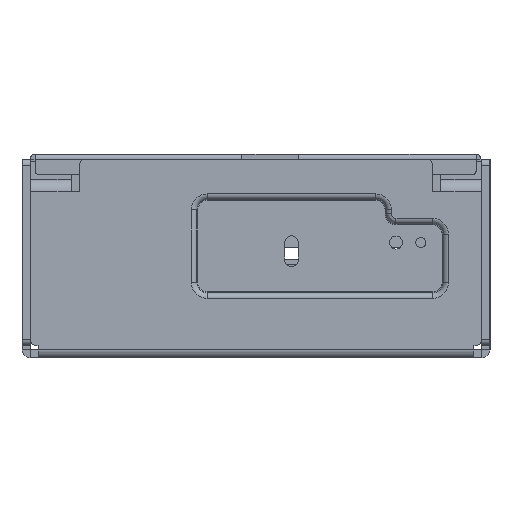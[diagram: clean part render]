
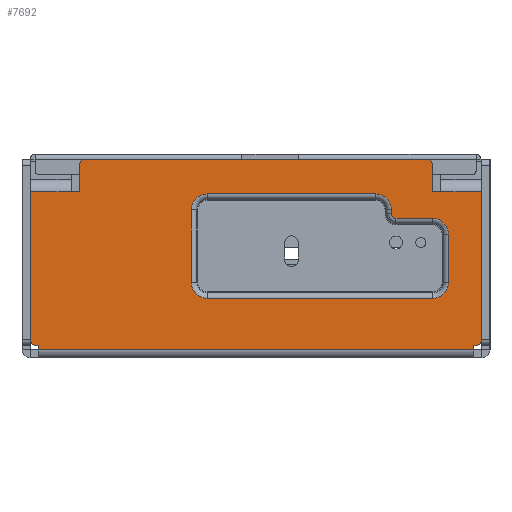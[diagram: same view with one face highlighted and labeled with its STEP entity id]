
A CAD part, left-side view. The second image highlights one B-rep face of the part: STEP entity #7692.
In plain terms, the highlighted planar face has unit normal (-1, 0, 0).
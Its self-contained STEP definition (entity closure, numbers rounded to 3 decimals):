
#1103=DIRECTION('',(0.,0.,-1.));
#1104=VECTOR('',#1103,1.);
#1105=CARTESIAN_POINT('',(0.,62.111,1.));
#1106=LINE('',#1105,#1104);
#1149=DIRECTION('',(0.,1.,0.));
#1150=VECTOR('',#1149,10.);
#1151=CARTESIAN_POINT('',(0.,54.011,38.8));
#1152=LINE('',#1151,#1150);
#1157=CARTESIAN_POINT('',(0.,50.511,45.3));
#1158=DIRECTION('',(1.,0.,0.));
#1159=DIRECTION('',(0.,1.,0.));
#1160=AXIS2_PLACEMENT_3D('',#1157,#1158,#1159);
#1162=DIRECTION('',(0.,-1.,0.));
#1163=VECTOR('',#1162,83.8);
#1164=CARTESIAN_POINT('',(0.,50.511,46.8));
#1165=LINE('',#1164,#1163);
#1166=CARTESIAN_POINT('',(0.,-33.289,45.3));
#1167=DIRECTION('',(1.,0.,0.));
#1168=DIRECTION('',(0.,0.,1.));
#1169=AXIS2_PLACEMENT_3D('',#1166,#1167,#1168);
#1171=DIRECTION('',(0.,-1.,0.));
#1172=VECTOR('',#1171,2.);
#1173=CARTESIAN_POINT('',(0.,-34.789,38.8));
#1174=LINE('',#1173,#1172);
#1175=DIRECTION('',(0.,0.,-1.));
#1176=VECTOR('',#1175,36.3);
#1177=CARTESIAN_POINT('',(0.,-46.789,38.8));
#1178=LINE('',#1177,#1176);
#1179=CARTESIAN_POINT('',(0.,-45.289,2.5));
#1180=DIRECTION('',(1.,0.,0.));
#1181=DIRECTION('',(0.,-1.,0.));
#1182=AXIS2_PLACEMENT_3D('',#1179,#1180,#1181);
#1184=DIRECTION('',(0.,1.,0.));
#1185=VECTOR('',#1184,0.4);
#1186=CARTESIAN_POINT('',(0.,-45.289,1.));
#1187=LINE('',#1186,#1185);
#1188=DIRECTION('',(0.,0.,-1.));
#1189=VECTOR('',#1188,1.);
#1190=CARTESIAN_POINT('',(0.,-44.889,1.));
#1191=LINE('',#1190,#1189);
#1192=DIRECTION('',(0.,1.,0.));
#1193=VECTOR('',#1192,0.4);
#1194=CARTESIAN_POINT('',(0.,62.111,1.));
#1195=LINE('',#1194,#1193);
#1196=CARTESIAN_POINT('',(0.,62.511,2.5));
#1197=DIRECTION('',(1.,0.,0.));
#1198=DIRECTION('',(0.,0.,-1.));
#1199=AXIS2_PLACEMENT_3D('',#1196,#1197,#1198);
#1201=DIRECTION('',(0.,0.,1.));
#1202=VECTOR('',#1201,36.3);
#1203=CARTESIAN_POINT('',(0.,64.011,2.5));
#1204=LINE('',#1203,#1202);
#1205=DIRECTION('',(0.,-1.,0.));
#1206=VECTOR('',#1205,2.);
#1207=CARTESIAN_POINT('',(0.,54.011,38.8));
#1208=LINE('',#1207,#1206);
#1209=DIRECTION('',(0.,0.,1.));
#1210=VECTOR('',#1209,6.5);
#1211=CARTESIAN_POINT('',(0.,52.011,38.8));
#1212=LINE('',#1211,#1210);
#1213=CARTESIAN_POINT('',(0.,-20.789,34.344));
#1214=DIRECTION('',(-1.,0.,0.));
#1215=DIRECTION('',(0.,-1.,0.));
#1216=AXIS2_PLACEMENT_3D('',#1213,#1214,#1215);
#1218=CARTESIAN_POINT('',(0.,20.611,34.344));
#1219=DIRECTION('',(-1.,0.,0.));
#1220=DIRECTION('',(0.,0.,1.));
#1221=AXIS2_PLACEMENT_3D('',#1218,#1219,#1220);
#1223=CARTESIAN_POINT('',(0.,20.611,16.5));
#1224=DIRECTION('',(-1.,0.,0.));
#1225=DIRECTION('',(0.,1.,0.));
#1226=AXIS2_PLACEMENT_3D('',#1223,#1224,#1225);
#1228=CARTESIAN_POINT('',(0.,-34.789,16.5));
#1229=DIRECTION('',(-1.,0.,0.));
#1230=DIRECTION('',(0.,0.,-1.));
#1231=AXIS2_PLACEMENT_3D('',#1228,#1229,#1230);
#1233=CARTESIAN_POINT('',(0.,-34.789,28.344));
#1234=DIRECTION('',(-1.,0.,0.));
#1235=DIRECTION('',(0.,-1.,0.));
#1236=AXIS2_PLACEMENT_3D('',#1233,#1234,#1235);
#1238=CARTESIAN_POINT('',(0.,-25.789,
33.344));
#1239=DIRECTION('',(1.,0.,0.));
#1240=DIRECTION('',(0.,0.,-1.));
#1241=AXIS2_PLACEMENT_3D('',#1238,#1239,#1240);
#1263=DIRECTION('',(0.,0.,1.));
#1264=VECTOR('',#1263,6.5);
#1265=CARTESIAN_POINT('',(0.,-34.789,38.8));
#1266=LINE('',#1265,#1264);
#1293=DIRECTION('',(0.,1.,0.));
#1294=VECTOR('',#1293,10.);
#1295=CARTESIAN_POINT('',(0.,-46.789,38.8));
#1296=LINE('',#1295,#1294);
#1605=DIRECTION('',(0.,-1.,0.));
#1606=VECTOR('',#1605,107.);
#1607=CARTESIAN_POINT('',(0.,62.111,0.));
#1608=LINE('',#1607,#1606);
#3838=DIRECTION('',(0.,0.,-1.));
#3839=VECTOR('',#3838,1.);
#3840=CARTESIAN_POINT('',(0.,-24.689,34.344));
#3841=LINE('',#3840,#3839);
#3875=DIRECTION('',(0.,-1.,0.));
#3876=VECTOR('',#3875,9.);
#3877=CARTESIAN_POINT('',(0.,-25.789,
32.244));
#3878=LINE('',#3877,#3876);
#3912=DIRECTION('',(0.,0.,-1.));
#3913=VECTOR('',#3912,11.844);
#3914=CARTESIAN_POINT('',(0.,-38.689,28.344));
#3915=LINE('',#3914,#3913);
#3935=DIRECTION('',(0.,1.,0.));
#3936=VECTOR('',#3935,55.4);
#3937=CARTESIAN_POINT('',(0.,-34.789,12.6));
#3938=LINE('',#3937,#3936);
#3982=DIRECTION('',(0.,0.,1.));
#3983=VECTOR('',#3982,17.844);
#3984=CARTESIAN_POINT('',(0.,24.511,16.5));
#3985=LINE('',#3984,#3983);
#4019=DIRECTION('',(0.,-1.,0.));
#4020=VECTOR('',#4019,41.4);
#4021=CARTESIAN_POINT('',(0.,20.611,38.244));
#4022=LINE('',#4021,#4020);
#5457=CARTESIAN_POINT('',(0.,-44.889,0.));
#5458=VERTEX_POINT('',#5457);
#5459=CARTESIAN_POINT('',(0.,-44.889,1.));
#5460=VERTEX_POINT('',#5459);
#5461=CARTESIAN_POINT('',(0.,62.111,0.));
#5462=VERTEX_POINT('',#5461);
#5463=CARTESIAN_POINT('',(0.,62.111,1.));
#5464=VERTEX_POINT('',#5463);
#5465=CARTESIAN_POINT('',(0.,62.511,1.));
#5466=VERTEX_POINT('',#5465);
#5467=CARTESIAN_POINT('',(0.,64.011,2.5));
#5468=VERTEX_POINT('',#5467);
#5469=CARTESIAN_POINT('',(0.,64.011,38.8));
#5470=VERTEX_POINT('',#5469);
#5475=CARTESIAN_POINT('',(0.,54.011,38.8));
#5476=VERTEX_POINT('',#5475);
#5479=CARTESIAN_POINT('',(0.,52.011,45.3));
#5480=CARTESIAN_POINT('',(0.,50.511,46.8));
#5481=VERTEX_POINT('',#5479);
#5482=VERTEX_POINT('',#5480);
#5483=CARTESIAN_POINT('',(0.,-33.289,46.8));
#5484=VERTEX_POINT('',#5483);
#5485=CARTESIAN_POINT('',(0.,-34.789,45.3));
#5486=VERTEX_POINT('',#5485);
#5487=CARTESIAN_POINT('',(0.,-34.789,38.8));
#5488=VERTEX_POINT('',#5487);
#5489=CARTESIAN_POINT('',(0.,-36.789,38.8));
#5490=VERTEX_POINT('',#5489);
#5491=CARTESIAN_POINT('',(0.,-46.789,38.8));
#5492=VERTEX_POINT('',#5491);
#5493=CARTESIAN_POINT('',(0.,-46.789,2.5));
#5494=VERTEX_POINT('',#5493);
#5495=CARTESIAN_POINT('',(0.,-45.289,1.));
#5496=VERTEX_POINT('',#5495);
#5497=CARTESIAN_POINT('',(0.,52.011,38.8));
#5498=VERTEX_POINT('',#5497);
#5499=CARTESIAN_POINT('',(0.,-24.689,34.344));
#5500=CARTESIAN_POINT('',(0.,-20.789,38.244));
#5501=VERTEX_POINT('',#5499);
#5502=VERTEX_POINT('',#5500);
#5503=CARTESIAN_POINT('',(0.,20.611,38.244));
#5504=VERTEX_POINT('',#5503);
#5505=CARTESIAN_POINT('',(0.,24.511,34.344));
#5506=VERTEX_POINT('',#5505);
#5507=CARTESIAN_POINT('',(0.,24.511,16.5));
#5508=VERTEX_POINT('',#5507);
#5509=CARTESIAN_POINT('',(0.,20.611,12.6));
#5510=VERTEX_POINT('',#5509);
#5511=CARTESIAN_POINT('',(0.,-34.789,12.6));
#5512=VERTEX_POINT('',#5511);
#5513=CARTESIAN_POINT('',(0.,-38.689,16.5));
#5514=VERTEX_POINT('',#5513);
#5515=CARTESIAN_POINT('',(0.,-38.689,28.344));
#5516=VERTEX_POINT('',#5515);
#5517=CARTESIAN_POINT('',(0.,-34.789,32.244));
#5518=VERTEX_POINT('',#5517);
#5519=CARTESIAN_POINT('',(0.,-25.789,
32.244));
#5520=VERTEX_POINT('',#5519);
#5521=CARTESIAN_POINT('',(0.,-24.689,
33.344));
#5522=VERTEX_POINT('',#5521);
#7629=CARTESIAN_POINT('',(0.,-46.889,-2.));
#7630=DIRECTION('',(-1.,0.,0.));
#7631=DIRECTION('',(0.,-1.,0.));
#7632=AXIS2_PLACEMENT_3D('',#7629,#7630,#7631);
#7633=PLANE('',#7632);
#7635=ORIENTED_EDGE('',*,*,#7634,.T.);
#7637=ORIENTED_EDGE('',*,*,#7636,.T.);
#7639=ORIENTED_EDGE('',*,*,#7638,.T.);
#7641=ORIENTED_EDGE('',*,*,#7640,.F.);
#7643=ORIENTED_EDGE('',*,*,#7642,.T.);
#7645=ORIENTED_EDGE('',*,*,#7644,.F.);
#7647=ORIENTED_EDGE('',*,*,#7646,.T.);
#7649=ORIENTED_EDGE('',*,*,#7648,.T.);
#7651=ORIENTED_EDGE('',*,*,#7650,.T.);
#7652=ORIENTED_EDGE('',*,*,#6719,.T.);
#7654=ORIENTED_EDGE('',*,*,#7653,.F.);
#7655=ORIENTED_EDGE('',*,*,#7551,.F.);
#7656=ORIENTED_EDGE('',*,*,#7564,.T.);
#7657=ORIENTED_EDGE('',*,*,#7579,.T.);
#7658=ORIENTED_EDGE('',*,*,#7592,.T.);
#7659=ORIENTED_EDGE('',*,*,#7619,.F.);
#7661=ORIENTED_EDGE('',*,*,#7660,.T.);
#7663=ORIENTED_EDGE('',*,*,#7662,.T.);
#7664=EDGE_LOOP('',(#7635,#7637,#7639,#7641,#7643,#7645,#7647,#7649,#7651,#7652,
#7654,#7655,#7656,#7657,#7658,#7659,#7661,#7663));
#7665=FACE_OUTER_BOUND('',#7664,.F.);
#7667=ORIENTED_EDGE('',*,*,#7666,.T.);
#7669=ORIENTED_EDGE('',*,*,#7668,.F.);
#7671=ORIENTED_EDGE('',*,*,#7670,.T.);
#7673=ORIENTED_EDGE('',*,*,#7672,.F.);
#7675=ORIENTED_EDGE('',*,*,#7674,.T.);
#7677=ORIENTED_EDGE('',*,*,#7676,.F.);
#7679=ORIENTED_EDGE('',*,*,#7678,.T.);
#7681=ORIENTED_EDGE('',*,*,#7680,.F.);
#7683=ORIENTED_EDGE('',*,*,#7682,.T.);
#7685=ORIENTED_EDGE('',*,*,#7684,.F.);
#7687=ORIENTED_EDGE('',*,*,#7686,.T.);
#7689=ORIENTED_EDGE('',*,*,#7688,.F.);
#7690=EDGE_LOOP('',(#7667,#7669,#7671,#7673,#7675,#7677,#7679,#7681,#7683,#7685,
#7687,#7689));
#7691=FACE_BOUND('',#7690,.F.);
#1161=CIRCLE('',#1160,1.5);
#1170=CIRCLE('',#1169,1.5);
#1183=CIRCLE('',#1182,1.5);
#1200=CIRCLE('',#1199,1.5);
#1217=CIRCLE('',#1216,3.9);
#1222=CIRCLE('',#1221,3.9);
#1227=CIRCLE('',#1226,3.9);
#1232=CIRCLE('',#1231,3.9);
#1237=CIRCLE('',#1236,3.9);
#1242=CIRCLE('',#1241,1.1);
#6719=EDGE_CURVE('',#5460,#5458,#1191,.T.);
#7551=EDGE_CURVE('',#5464,#5462,#1106,.T.);
#7564=EDGE_CURVE('',#5464,#5466,#1195,.T.);
#7579=EDGE_CURVE('',#5466,#5468,#1200,.T.);
#7592=EDGE_CURVE('',#5468,#5470,#1204,.T.);
#7619=EDGE_CURVE('',#5476,#5470,#1152,.T.);
#7634=EDGE_CURVE('',#5481,#5482,#1161,.T.);
#7636=EDGE_CURVE('',#5482,#5484,#1165,.T.);
#7638=EDGE_CURVE('',#5484,#5486,#1170,.T.);
#7640=EDGE_CURVE('',#5488,#5486,#1266,.T.);
#7642=EDGE_CURVE('',#5488,#5490,#1174,.T.);
#7644=EDGE_CURVE('',#5492,#5490,#1296,.T.);
#7646=EDGE_CURVE('',#5492,#5494,#1178,.T.);
#7648=EDGE_CURVE('',#5494,#5496,#1183,.T.);
#7650=EDGE_CURVE('',#5496,#5460,#1187,.T.);
#7653=EDGE_CURVE('',#5462,#5458,#1608,.T.);
#7660=EDGE_CURVE('',#5476,#5498,#1208,.T.);
#7662=EDGE_CURVE('',#5498,#5481,#1212,.T.);
#7666=EDGE_CURVE('',#5501,#5502,#1217,.T.);
#7668=EDGE_CURVE('',#5504,#5502,#4022,.T.);
#7670=EDGE_CURVE('',#5504,#5506,#1222,.T.);
#7672=EDGE_CURVE('',#5508,#5506,#3985,.T.);
#7674=EDGE_CURVE('',#5508,#5510,#1227,.T.);
#7676=EDGE_CURVE('',#5512,#5510,#3938,.T.);
#7678=EDGE_CURVE('',#5512,#5514,#1232,.T.);
#7680=EDGE_CURVE('',#5516,#5514,#3915,.T.);
#7682=EDGE_CURVE('',#5516,#5518,#1237,.T.);
#7684=EDGE_CURVE('',#5520,#5518,#3878,.T.);
#7686=EDGE_CURVE('',#5520,#5522,#1242,.T.);
#7688=EDGE_CURVE('',#5501,#5522,#3841,.T.);
#7692=ADVANCED_FACE('',(#7665,#7691),#7633,.T.);
